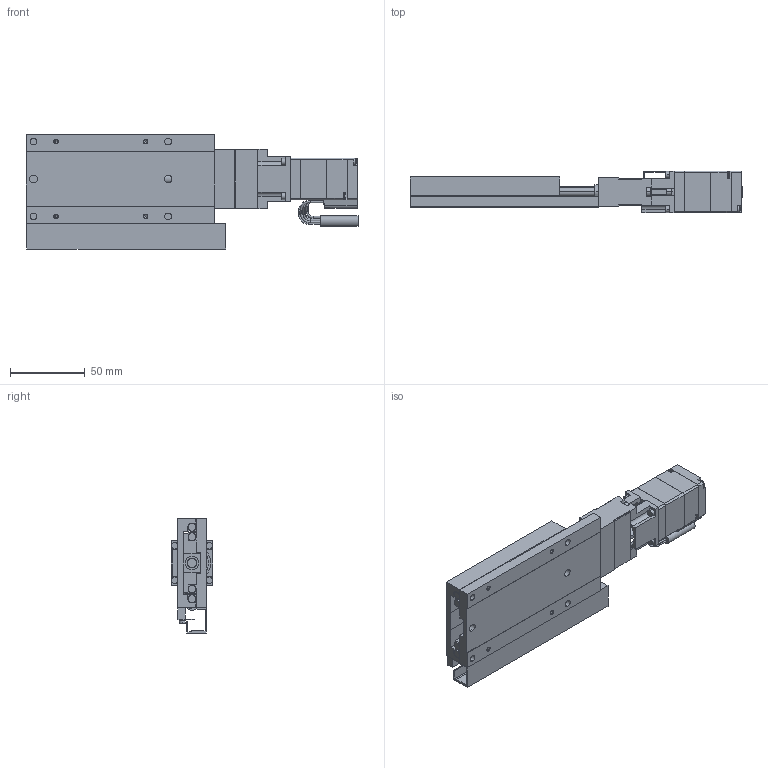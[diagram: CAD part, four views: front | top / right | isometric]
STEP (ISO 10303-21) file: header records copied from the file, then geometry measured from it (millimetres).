
FILE_DESCRIPTION(('STEP AP203'),'1');
FILE_NAME('C:/3D-Trans/3D_PG650T-R□-PA+240118.step','2024-02-26T08:39:10',(' '),(' '),'Spatial InterOp 3D',' ',' ');
FILE_SCHEMA(('CONFIG_CONTROL_DESIGN'));
Length unit declared in the file: millimetre
Products named in the file (6): 1; 2; 3; 4; 5; 6
Bounding box: 221.9 x 28 x 77.4 mm (x, y, z)
Volume: 167009.6 mm3; surface area: 77173.4 mm2
Topology: 6 solids, 6 shells, 717 faces, 1881 edges, 1185 vertices
Faces by surface type: plane 368, cylinder 211, cone 74, torus 64
Entity records: 22472 total; most frequent: CARTESIAN_POINT 4019, DIRECTION 3976, ORIENTED_EDGE 3706, EDGE_CURVE 1853, AXIS2_PLACEMENT_3D 1414, VERTEX_POINT 1185, LINE 1148, VECTOR 1148
